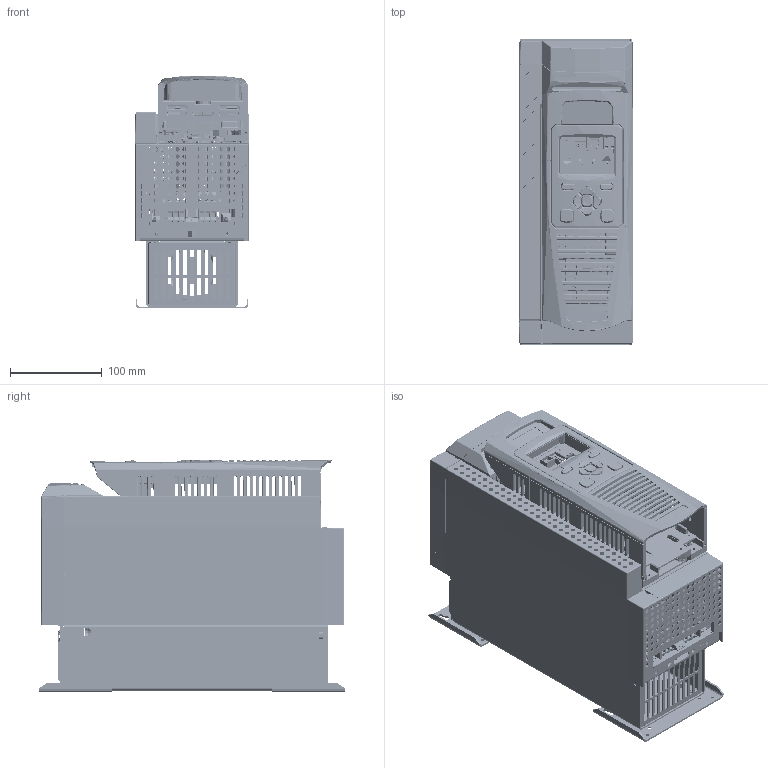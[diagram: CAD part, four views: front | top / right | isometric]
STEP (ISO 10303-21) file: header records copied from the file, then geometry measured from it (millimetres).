
FILE_DESCRIPTION(/* description */ ('brkt_mtg_123079_10_2thk0'),/* implementation_level */ '2;1');
FILE_NAME(/* name */ 'C:\1SSDE Vault\CAD\Users\Paul\AC30x_pdcts\AC30E\assy_pdct_szE_otln.stp',/* time_stamp */ '2015-11-16T15:36:28+00:00',/* author */ ('pw037365'),/* organization */ (''),/* preprocessor_version */ 'ST-DEVELOPER v15.2',/* originating_system */ 'Autodesk Inventor 2014',/* authorisation */ '');
FILE_SCHEMA (('AUTOMOTIVE_DESIGN { 1 0 10303 214 3 1 1 }'));
Products named in the file (26): brkt_mtg_123079_10_2thk0_BA501511_9; dct_fn_shtm_295100_72_BA501450_32; chss_base_324119_49_1thk2_BA501397_38; grd_dct_shtm_9771_BA501400_18; grd_fn_shtm_60_100_BA501513_7; cvr_fr_szE_BD501654_v05_nx20feb13; cvr_trm_lwr_szE_BD501655_v06_nx06jul12_1; cvr_trm_upr_szE_BD501656_v05_nx20feb13_1; spcr_gnd_m4_9d8_4h0_BG501916_3; scr_assy_tpnsprflt_m4_16; BB501373v26a_hsng_cst_bk; BB501372v22_hsng_cst_fr; BD501377U000v25_CVR_FR_UPPER; BD501376U000v18_CVR_FR_LWR_QUALIFICATION; cvr_top_dspl_BD501712_1; dspl_ky_rbbr_9p_78w; oass_gkp_7001; CI501525U006; CI501526U004; skt_th_45deg_rj45_21h_CI501527_1; skt_s_ra_rj11_4w_12h_CI501543_1; skt_s_ra_2x3_6h_2p54_CI501545U006_1; hsng_assy_vcm_otln; CI501363U003; CI501363U004; assy_pdct_szE_otln
Bounding box: 125 x 333 x 254.25 mm (x, y, z)
Volume: 1028644.1 mm3; surface area: 979863.8 mm2
Topology: 31 solids, 34 shells, 12435 faces, 34290 edges, 21821 vertices
Faces by surface type: plane 6698, cylinder 2455, cone 1454, bspline 1187, torus 356, sphere 285
Full cylindrical faces by diameter (mm): 0.457 x3, 0.8 x2, 1.2 x28, 1.3 x10, 2 x21, 3.2 x2, 3.346 x1, 3.4 x4, 3.492 x1, 3.5 x33, 3.7 x8, 3.9 x7, 4 x29, 4.2 x1, 4.4 x16, 4.5 x27, 4.6 x2, 4.7 x2, 4.8 x6, 5 x12, 5.5 x4, 5.9 x1, 6.5 x3, 8 x31, 8.242 x1, 8.4 x1, 8.75 x2, 9 x2, 9.8 x2, 10 x5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
Entity records: 406967 total; most frequent: CARTESIAN_POINT 129910, ORIENTED_EDGE 57238, DIRECTION 54619, EDGE_CURVE 28603, AXIS2_PLACEMENT_3D 19165, VERTEX_POINT 18788, LINE 16289, VECTOR 16289
